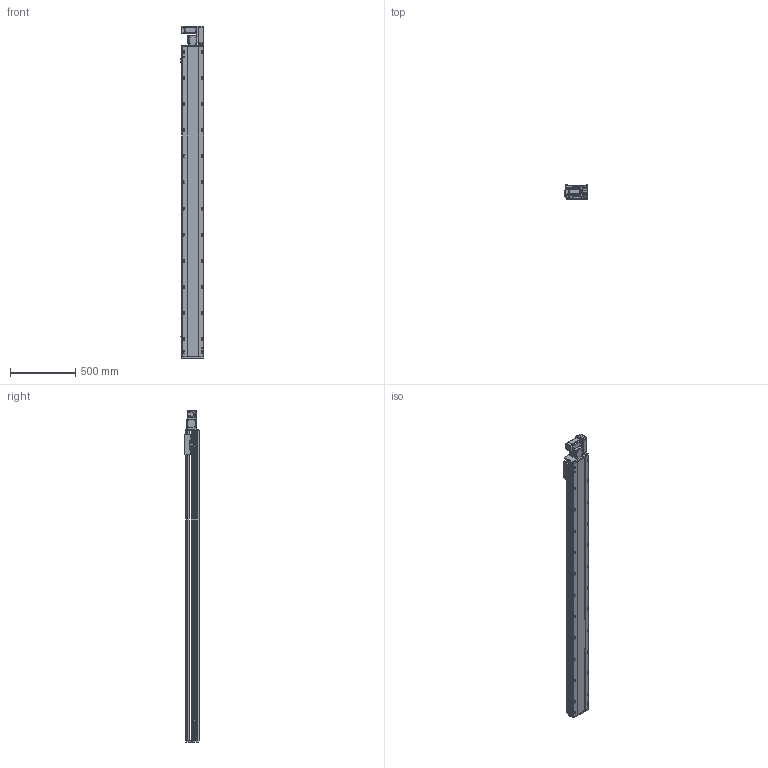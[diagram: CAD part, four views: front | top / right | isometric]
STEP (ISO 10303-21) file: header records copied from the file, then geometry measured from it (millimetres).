
FILE_DESCRIPTION (( 'STEP AP214' ), '1' );
FILE_NAME ('RTB17S-XX-2100-R-M40-C4.STEP', '2025-12-11T07:44:38', ( '' ), ( '' ), 'SwSTEP 2.0', 'SolidWorks 2018', '' );
FILE_SCHEMA (( 'AUTOMOTIVE_DESIGN' ));
Length unit declared in the file: millimetre
Products named in the file (14): RTB17S-R-々湍釱蚾饜-400W^RTB17S-XX-XX-R-M40-C4; RTB17-R-011菁釱^RTB17S-XX-XX-R-M40-C4; RTH13-BL-012覜茼え俋离^RTB17S-XX-XX-R-M40-C4; 400W侜督萇儂^RTB17S-XX-XX-R-M40-C4; RTB17S-L-001耜醱啣^RTB17S-XX-XX-R-M40-C4; RTB17S-XX-2100-R-M40-C4; RTB17S-L-007奻裔^RTB17S-XX-XX-R-M40-C4; RTB17S-L-014-T20--々湍釱^RTB17S-R-々湍釱蚾饜-400W_RTB17S-XX-XX-R-M40-C4; OMRON EE-SX672 传感器^RTB17S-XX-XX-R-M40-C4; RTB14-L-008-M20--萇儂啣^RTB17S-R-々湍釱蚾饜-400W_RTB17S-XX-XX-R-M40-C4; RTB14-L-005P--轴承塑胶压盖^RTB17S-R-皮带座装配-400W_RTB17S-XX-XX-R-M40-C4; RTB14-L-017P^RTB17S-R-々湍釱蚾饜-400W_RTB17S-XX-XX-R-M40-C4; RTB14-L-018P^RTB17S-R-々湍釱蚾饜-400W_RTB17S-XX-XX-R-M40-C4; RTB17S-L-004佪裝蹟譫蟀諉釱^RTB17S-XX-XX-R-M40-C4
Assembly tree (16 placements, depth 3):
  RTB17S-XX-2100-R-M40-C4
    RTB17-R-011菁釱^RTB17S-XX-XX-R-M40-C4
    RTB17S-L-007奻裔^RTB17S-XX-XX-R-M40-C4
    OMRON EE-SX672 传感器^RTB17S-XX-XX-R-M40-C4  x3
    RTB17S-L-001耜醱啣^RTB17S-XX-XX-R-M40-C4
    400W侜督萇儂^RTB17S-XX-XX-R-M40-C4
    RTB17S-L-004佪裝蹟譫蟀諉釱^RTB17S-XX-XX-R-M40-C4
    RTH13-BL-012覜茼え俋离^RTB17S-XX-XX-R-M40-C4
    RTB17S-R-々湍釱蚾饜-400W^RTB17S-XX-XX-R-M40-C4
      RTB17S-L-014-T20--々湍釱^RTB17S-R-々湍釱蚾饜-400W_RTB17S-XX-XX-R-M40-C4
      RTB14-L-005P--轴承塑胶压盖^RTB17S-R-皮带座装配-400W_RTB17S-XX-XX-R-M40-C4
      RTB14-L-008-M20--萇儂啣^RTB17S-R-々湍釱蚾饜-400W_RTB17S-XX-XX-R-M40-C4
      RTB14-L-017P^RTB17S-R-々湍釱蚾饜-400W_RTB17S-XX-XX-R-M40-C4  x2
      RTB14-L-018P^RTB17S-R-々湍釱蚾饜-400W_RTB17S-XX-XX-R-M40-C4
Bounding box: 183.5 x 108 x 2541 mm (x, y, z)
Volume: 21342140 mm3; surface area: 2477184.7 mm2
Topology: 15 solids, 15 shells, 2301 faces, 6411 edges, 4185 vertices
Faces by surface type: plane 1080, cylinder 773, bspline 301, cone 139, torus 8
Entity records: 67241 total; most frequent: CARTESIAN_POINT 19016, ORIENTED_EDGE 9666, DIRECTION 8936, EDGE_CURVE 4833, VERTEX_POINT 3173, AXIS2_PLACEMENT_3D 3103, VECTOR 2730, LINE 2730
